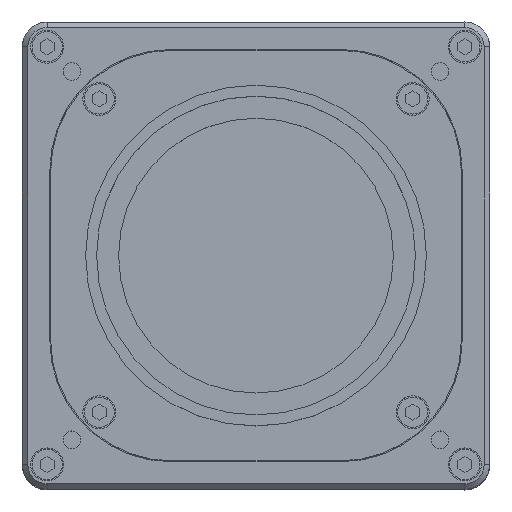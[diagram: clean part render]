
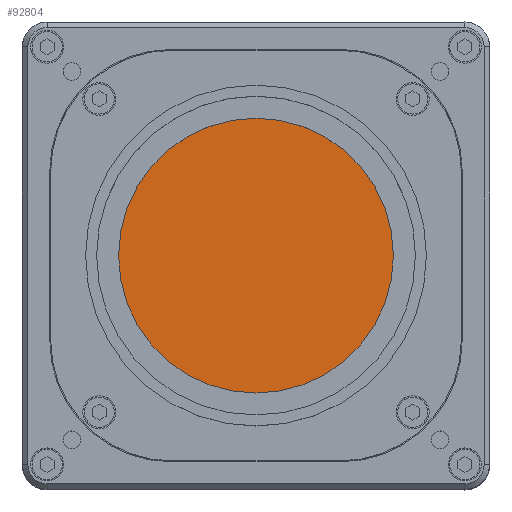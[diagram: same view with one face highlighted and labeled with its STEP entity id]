
A CAD part, top view. The second image highlights one B-rep face of the part: STEP entity #92804.
In plain terms, the highlighted planar face has unit normal (0, 0, 1).
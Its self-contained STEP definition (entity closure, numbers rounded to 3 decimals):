
#1054 = FACE_OUTER_BOUND ( 'NONE', #76389, .T. ) ;
#1088 = PLANE ( 'NONE',  #73066 ) ;
#1645 = DIRECTION ( 'NONE',  ( 0., 0., -1. ) ) ;
#26976 = CARTESIAN_POINT ( 'NONE',  ( 0., 0., 17.1 ) ) ;
#39710 = DIRECTION ( 'NONE',  ( -1., 0., 0. ) ) ;
#42299 = VERTEX_POINT ( 'NONE', #160008 ) ;
#52061 = CARTESIAN_POINT ( 'NONE',  ( 0., 0., 17.1 ) ) ;
#64549 = ORIENTED_EDGE ( 'NONE', *, *, #148943, .F. ) ;
#72563 = AXIS2_PLACEMENT_3D ( 'NONE', #26976, #115536, #39710 ) ;
#73066 = AXIS2_PLACEMENT_3D ( 'NONE', #52061, #1645, #90279 ) ;
#75254 = DIRECTION ( 'NONE',  ( 0., 0., -1. ) ) ;
#76389 = EDGE_LOOP ( 'NONE', ( #156838, #64549 ) ) ;
#90279 = DIRECTION ( 'NONE',  ( -1., 0., 0. ) ) ;
#92804 = ADVANCED_FACE ( 'NONE', ( #1054 ), #1088, .F. ) ;
#102434 = EDGE_CURVE ( 'NONE', #140130, #42299, #136434, .T. ) ;
#103589 = CARTESIAN_POINT ( 'NONE',  ( -26.75, 0., 17.1 ) ) ;
#114641 = AXIS2_PLACEMENT_3D ( 'NONE', #150971, #75254, #163669 ) ;
#115536 = DIRECTION ( 'NONE',  ( 0., 0., -1. ) ) ;
#127542 = CIRCLE ( 'NONE', #114641, 26.75 ) ;
#136434 = CIRCLE ( 'NONE', #72563, 26.75 ) ;
#140130 = VERTEX_POINT ( 'NONE', #103589 ) ;
#148943 = EDGE_CURVE ( 'NONE', #42299, #140130, #127542, .T. ) ;
#150971 = CARTESIAN_POINT ( 'NONE',  ( 0., 0., 17.1 ) ) ;
#156838 = ORIENTED_EDGE ( 'NONE', *, *, #102434, .F. ) ;
#160008 = CARTESIAN_POINT ( 'NONE',  ( 26.75, 0., 17.1 ) ) ;
#163669 = DIRECTION ( 'NONE',  ( -1., 0., 0. ) ) ;
